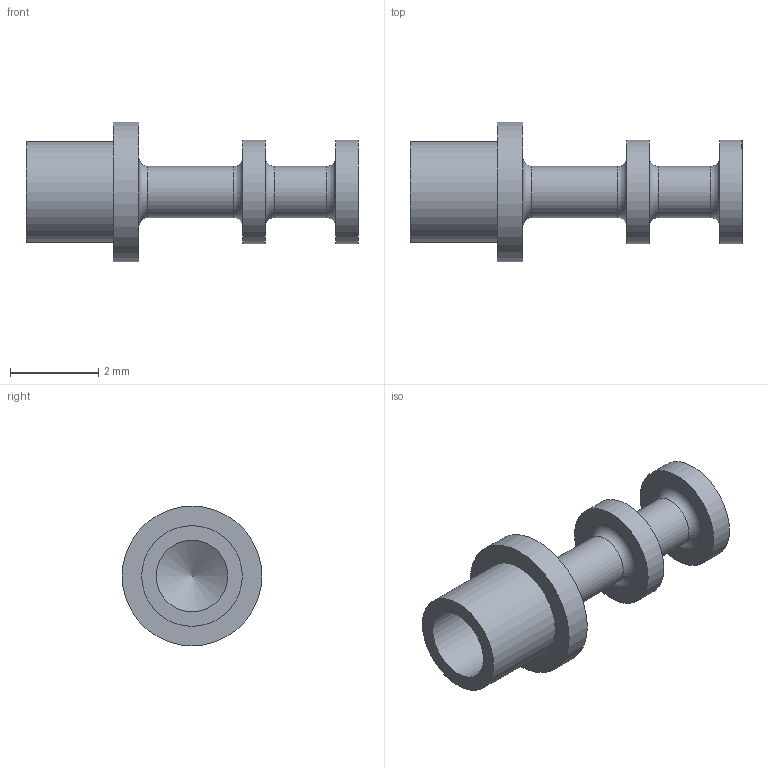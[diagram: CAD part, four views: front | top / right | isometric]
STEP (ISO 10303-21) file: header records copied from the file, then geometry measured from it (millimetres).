
FILE_DESCRIPTION(/* description */ (''),/* implementation_level */ '2;1');
FILE_NAME(/* name */ 'Z:\STEP folder\160-1558-01.ipt.stp',/* time_stamp */ '2016-12-07T10:48:01+00:00',/* author */ ('Paul Karlsons'),/* organization */ (''),/* preprocessor_version */ 'ST-DEVELOPER v15.2',/* originating_system */ 'Autodesk Inventor 2014',/* authorisation */ '');
FILE_SCHEMA (('AUTOMOTIVE_DESIGN { 1 0 10303 214 3 1 1 }'));
Length unit declared in the file: millimetre
Products named in the file (1): 160-1558-01
Bounding box: 7.54 x 3.17 x 3.17 mm (x, y, z)
Volume: 18.8 mm3; surface area: 76.4 mm2
Topology: 1 solids, 1 shells, 19 faces, 31 edges, 19 vertices
Faces by surface type: cylinder 7, plane 7, torus 4, cone 1
Full cylindrical faces by diameter (mm): 1.168 x2, 1.626 x1, 2.286 x1, 2.362 x2, 3.175 x1
Entity records: 395 total; most frequent: DIRECTION 76, CARTESIAN_POINT 56, AXIS2_PLACEMENT_3D 38, EDGE_LOOP 36, ORIENTED_EDGE 36, FACE_BOUND 20, ADVANCED_FACE 19, CIRCLE 18
